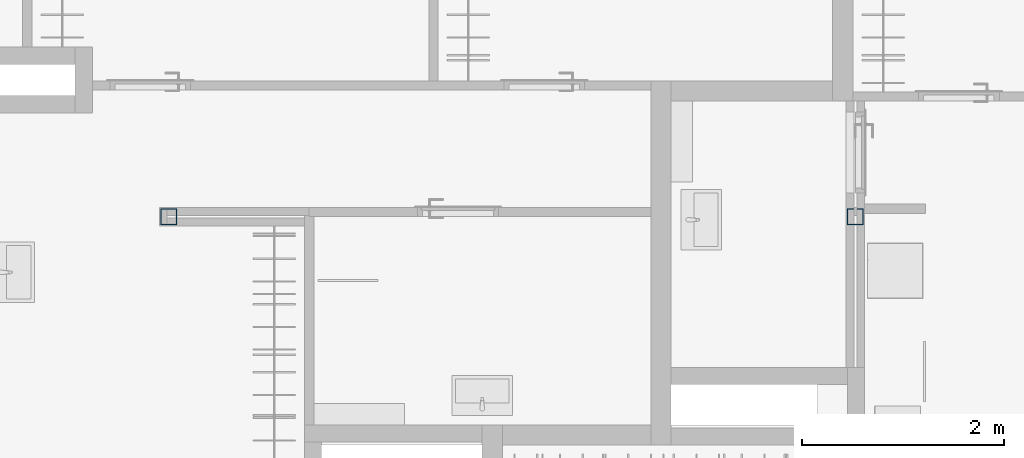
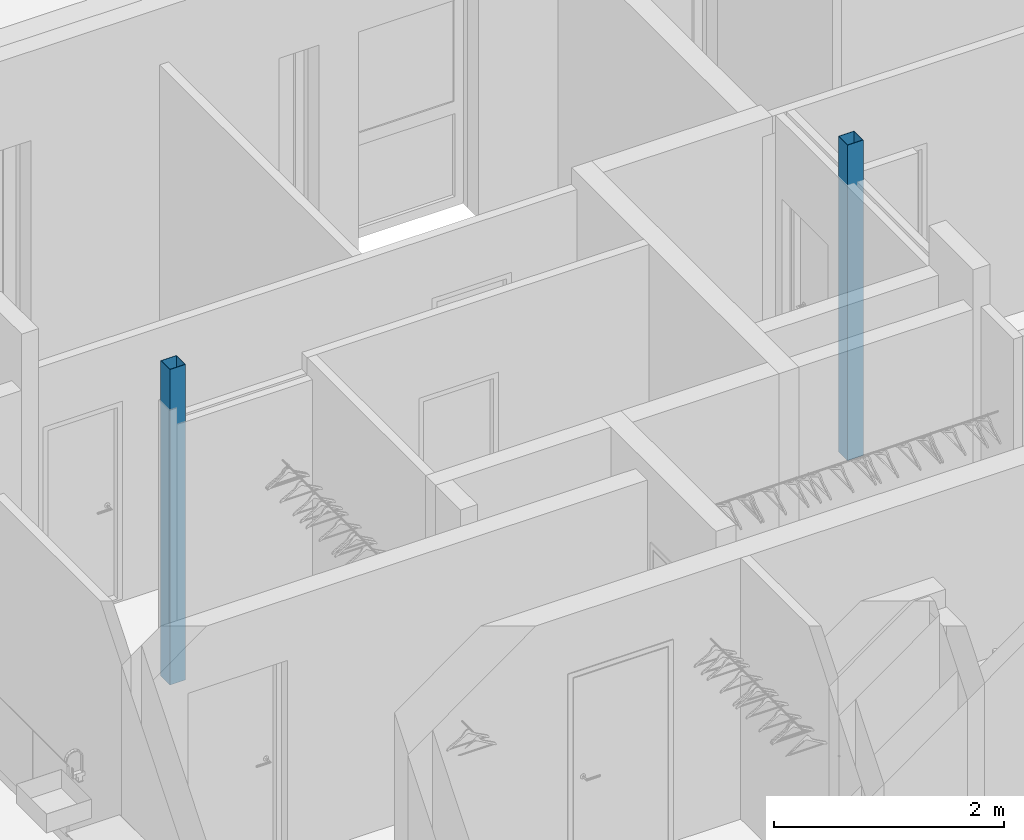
# One storey, part 1 of 42: 2 columns.
"""IFC2X3 building model written with IfcOpenShell, lengths in millimetres."""

from ifc_helpers import new_model, entity, si_unit, converted_unit, direction, frame, origin, place, context, subcontext, project, spatial, polyline, outline, extrude, source, transform, mapped, material, type_object, type_shapes, element, save


model = new_model("IFC2X3")

# Units and contexts
model_context = context("Model", 3, precision=0.01, world=origin(), true_north=direction((6.123233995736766e-17, 1.0)))
plan_context = context("Plan", 3, precision=0.01, world=origin(), true_north=direction((6.123233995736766e-17, 1.0)))
body_context = subcontext(model_context, "Body", "Model", "MODEL_VIEW")
ifc_project = project(units=[si_unit("LENGTHUNIT", "METRE", prefix="MILLI"), converted_unit("PLANEANGLEUNIT", "DEGREE", entity("IfcPlaneAngleMeasure", 0.017453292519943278), si_unit("PLANEANGLEUNIT", "RADIAN"), dimensions=[0, 0, 0, 0, 0, 0, 0]), si_unit("AREAUNIT", "SQUARE_METRE")], contexts=[model_context, plan_context])

# Site, building, storey
site_placement = place(None, origin())
site = spatial("IfcSite", under=ifc_project, at=site_placement, Name="Default", CompositionType="ELEMENT")
building_placement = place(site_placement, origin())
building = spatial("IfcBuilding", under=site, at=building_placement, CompositionType="ELEMENT")
storey_placement = place(building_placement, frame((0.0, 0.0, 9465.000076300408)))
storey = spatial("IfcBuildingStorey", under=building, at=storey_placement, Name="4K", CompositionType="ELEMENT", Elevation=9465.000076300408)

# Columns
ifc_material = material(Name="_K. Metall. Teras. Värvitud")
column_type = type_object("IfcColumnType", Name="HR_Column_Rectangular_Hollow:160x160x5", PredefinedType="COLUMN", material=ifc_material)
shared_shape = source(origin(), body_context, "Body", "SweptSolid", [
    extrude(outline(polyline([(-80.0, -80.0), (80.0, -80.0), (80.0, 80.0), (-80.0, 80.0), (-80.0, -80.0)]), holes=[polyline([(75.0, 75.0), (75.0, -75.0), (-75.0, -75.0), (-75.0, 75.0), (75.0, 75.0)])]), frame((0.0, 0.0, 9465.000076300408), z_axis=(0.0, 0.0, 1.0), x_axis=(0.0, 1.0, 0.0)), (0.0, 0.0, 1.0), 3345.9999999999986),
])
type_shapes(column_type, [shared_shape])
for number, where, name in (
    (1, (5175.0, 10700.0, -9465.000076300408), "HR_Column_Rectangular_Hollow:160x160x5"),
    (2, (11975.0, 10700.0, -9465.000076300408), "HR_Column_Rectangular_Hollow:160x160x5"),
):
    element("IfcColumn", number, at=place(storey_placement, frame(where)), inside=storey, type_object=column_type, material=ifc_material, Name=name, ObjectType="HR_Column_Rectangular_Hollow:160x160x5", context=body_context, shape_type="MappedRepresentation", body=[
        mapped(shared_shape, transform((0.0, 0.0, 0.0), scale=1.0)),
    ])

save(model, "model.ifc")
